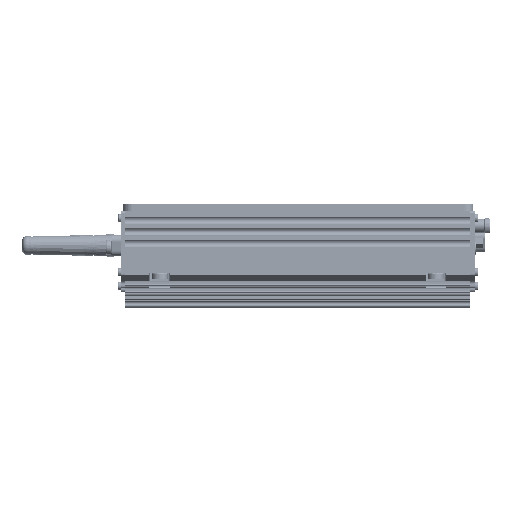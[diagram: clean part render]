
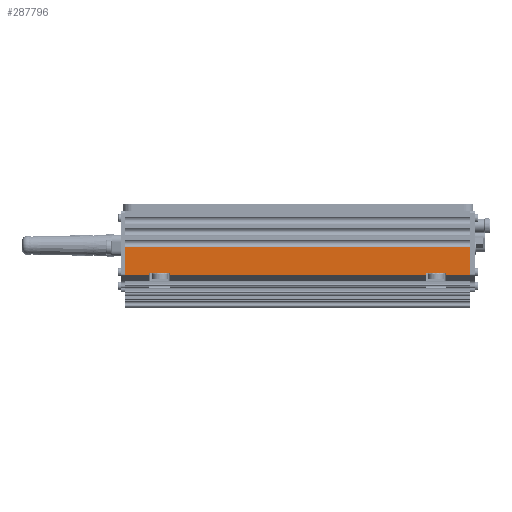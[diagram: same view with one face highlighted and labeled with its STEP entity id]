
A CAD part, left-side view. The second image highlights one B-rep face of the part: STEP entity #287796.
In plain terms, the highlighted planar face has unit normal (-1, 0, 0).
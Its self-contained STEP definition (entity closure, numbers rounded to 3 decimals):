
#20656 = DIRECTION ( 'NONE',  ( 0., -1., 0. ) ) ;
#23544 = EDGE_CURVE ( 'NONE', #770663, #515960, #704110, .T. ) ;
#62546 = VECTOR ( 'NONE', #1071418, 1000. ) ;
#82371 = EDGE_CURVE ( 'NONE', #476608, #313727, #1182696, .T. ) ;
#97591 = DIRECTION ( 'NONE',  ( 0., 0., 1. ) ) ;
#100037 = AXIS2_PLACEMENT_3D ( 'NONE', #1122215, #571860, #20656 ) ;
#104467 = CARTESIAN_POINT ( 'NONE',  ( -129.051, 57.387, 209.971 ) ) ;
#118673 = CARTESIAN_POINT ( 'NONE',  ( -129.051, -73.113, 221.321 ) ) ;
#120809 = LINE ( 'NONE', #157986, #825834 ) ;
#155714 = CARTESIAN_POINT ( 'NONE',  ( -129.051, 66.387, 194.971 ) ) ;
#155819 = EDGE_CURVE ( 'NONE', #520659, #766640, #664793, .T. ) ;
#157986 = CARTESIAN_POINT ( 'NONE',  ( -129.051, -73.113, 194.971 ) ) ;
#181381 = LINE ( 'NONE', #155714, #857649 ) ;
#181657 = CARTESIAN_POINT ( 'NONE',  ( -129.051, 76.887, 194.971 ) ) ;
#189983 = CARTESIAN_POINT ( 'NONE',  ( -129.051, 57.387, 194.971 ) ) ;
#193770 = VECTOR ( 'NONE', #882510, 1000. ) ;
#200500 = VERTEX_POINT ( 'NONE', #545180 ) ;
#220653 = VECTOR ( 'NONE', #908116, 1000. ) ;
#239065 = CARTESIAN_POINT ( 'NONE',  ( -129.051, -73.113, 209.321 ) ) ;
#245031 = VECTOR ( 'NONE', #1038685, 1000. ) ;
#249589 = LINE ( 'NONE', #727518, #220653 ) ;
#287796 = ADVANCED_FACE ( 'NONE', ( #573162 ), #752879, .F. ) ;
#313727 = VERTEX_POINT ( 'NONE', #443097 ) ;
#344819 = VECTOR ( 'NONE', #97591, 1000. ) ;
#357346 = CARTESIAN_POINT ( 'NONE',  ( -129.051, 76.887, 221.321 ) ) ;
#360468 = CARTESIAN_POINT ( 'NONE',  ( -129.051, -62.613, 209.321 ) ) ;
#370175 = ORIENTED_EDGE ( 'NONE', *, *, #769492, .F. ) ;
#382542 = ORIENTED_EDGE ( 'NONE', *, *, #155819, .F. ) ;
#386168 = ORIENTED_EDGE ( 'NONE', *, *, #739293, .F. ) ;
#391232 = VECTOR ( 'NONE', #432664, 1000. ) ;
#404320 = CARTESIAN_POINT ( 'NONE',  ( -129.051, 76.887, 221.321 ) ) ;
#430473 = VECTOR ( 'NONE', #862566, 1000. ) ;
#431052 = CARTESIAN_POINT ( 'NONE',  ( -129.051, -73.113, 209.321 ) ) ;
#432664 = DIRECTION ( 'NONE',  ( 0., 1., 0. ) ) ;
#443097 = CARTESIAN_POINT ( 'NONE',  ( -129.051, 76.887, 209.321 ) ) ;
#476608 = VERTEX_POINT ( 'NONE', #752499 ) ;
#478104 = VECTOR ( 'NONE', #612302, 1000. ) ;
#495583 = ORIENTED_EDGE ( 'NONE', *, *, #677290, .F. ) ;
#515960 = VERTEX_POINT ( 'NONE', #357346 ) ;
#520659 = VERTEX_POINT ( 'NONE', #636911 ) ;
#545180 = CARTESIAN_POINT ( 'NONE',  ( -129.051, -62.613, 209.971 ) ) ;
#550390 = CARTESIAN_POINT ( 'NONE',  ( -129.051, 66.387, 209.971 ) ) ;
#571860 = DIRECTION ( 'NONE',  ( 1., 0., 0. ) ) ;
#572909 = VERTEX_POINT ( 'NONE', #104467 ) ;
#573162 = FACE_OUTER_BOUND ( 'NONE', #1006327, .T. ) ;
#575471 = CARTESIAN_POINT ( 'NONE',  ( -129.051, 57.387, 209.321 ) ) ;
#575678 = ORIENTED_EDGE ( 'NONE', *, *, #82371, .F. ) ;
#612302 = DIRECTION ( 'NONE',  ( 0., 1., 0. ) ) ;
#614419 = DIRECTION ( 'NONE',  ( 0., 0., -1. ) ) ;
#628878 = VERTEX_POINT ( 'NONE', #773427 ) ;
#636911 = CARTESIAN_POINT ( 'NONE',  ( -129.051, -53.613, 209.321 ) ) ;
#642404 = EDGE_CURVE ( 'NONE', #766640, #572909, #904273, .T. ) ;
#655128 = EDGE_CURVE ( 'NONE', #705235, #476608, #181381, .T. ) ;
#664793 = LINE ( 'NONE', #1164252, #391232 ) ;
#677290 = EDGE_CURVE ( 'NONE', #1090627, #520659, #704375, .T. ) ;
#689804 = ORIENTED_EDGE ( 'NONE', *, *, #23544, .T. ) ;
#695086 = EDGE_CURVE ( 'NONE', #628878, #770663, #120809, .T. ) ;
#702028 = CARTESIAN_POINT ( 'NONE',  ( -129.051, 76.887, 209.971 ) ) ;
#704110 = LINE ( 'NONE', #404320, #430473 ) ;
#704375 = LINE ( 'NONE', #786246, #1164251 ) ;
#705235 = VERTEX_POINT ( 'NONE', #550390 ) ;
#718057 = ORIENTED_EDGE ( 'NONE', *, *, #840552, .F. ) ;
#724584 = ORIENTED_EDGE ( 'NONE', *, *, #642404, .F. ) ;
#727518 = CARTESIAN_POINT ( 'NONE',  ( -129.051, -62.613, 194.971 ) ) ;
#732608 = VERTEX_POINT ( 'NONE', #360468 ) ;
#734592 = LINE ( 'NONE', #757790, #245031 ) ;
#739293 = EDGE_CURVE ( 'NONE', #732608, #200500, #249589, .T. ) ;
#741418 = LINE ( 'NONE', #181657, #956797 ) ;
#752499 = CARTESIAN_POINT ( 'NONE',  ( -129.051, 66.387, 209.321 ) ) ;
#752879 = PLANE ( 'NONE',  #100037 ) ;
#757790 = CARTESIAN_POINT ( 'NONE',  ( -129.051, 76.887, 209.971 ) ) ;
#766640 = VERTEX_POINT ( 'NONE', #575471 ) ;
#769492 = EDGE_CURVE ( 'NONE', #313727, #515960, #741418, .T. ) ;
#770663 = VERTEX_POINT ( 'NONE', #118673 ) ;
#773427 = CARTESIAN_POINT ( 'NONE',  ( -129.051, -73.113, 209.321 ) ) ;
#786246 = CARTESIAN_POINT ( 'NONE',  ( -129.051, -53.613, 208.602 ) ) ;
#801428 = DIRECTION ( 'NONE',  ( 0., 0., 1. ) ) ;
#825249 = LINE ( 'NONE', #702028, #62546 ) ;
#825834 = VECTOR ( 'NONE', #801428, 1000. ) ;
#834236 = CARTESIAN_POINT ( 'NONE',  ( -129.051, -53.613, 209.971 ) ) ;
#837830 = ORIENTED_EDGE ( 'NONE', *, *, #695086, .T. ) ;
#840552 = EDGE_CURVE ( 'NONE', #572909, #705235, #734592, .T. ) ;
#846791 = ORIENTED_EDGE ( 'NONE', *, *, #655128, .F. ) ;
#857649 = VECTOR ( 'NONE', #614419, 1000. ) ;
#862566 = DIRECTION ( 'NONE',  ( 0., 1., 0. ) ) ;
#878707 = DIRECTION ( 'NONE',  ( 0., 0., -1. ) ) ;
#882510 = DIRECTION ( 'NONE',  ( 0., 1., 0. ) ) ;
#898961 = LINE ( 'NONE', #239065, #193770 ) ;
#904273 = LINE ( 'NONE', #189983, #344819 ) ;
#908116 = DIRECTION ( 'NONE',  ( 0., 0., 1. ) ) ;
#917678 = DIRECTION ( 'NONE',  ( 0., 0., 1. ) ) ;
#956797 = VECTOR ( 'NONE', #917678, 1000. ) ;
#1003259 = ORIENTED_EDGE ( 'NONE', *, *, #1126091, .F. ) ;
#1006327 = EDGE_LOOP ( 'NONE', ( #382542, #495583, #1003259, #386168, #1086705, #837830, #689804, #370175, #575678, #846791, #718057, #724584 ) ) ;
#1038685 = DIRECTION ( 'NONE',  ( 0., 1., 0. ) ) ;
#1071418 = DIRECTION ( 'NONE',  ( 0., 1., 0. ) ) ;
#1086705 = ORIENTED_EDGE ( 'NONE', *, *, #1176556, .F. ) ;
#1090627 = VERTEX_POINT ( 'NONE', #834236 ) ;
#1122215 = CARTESIAN_POINT ( 'NONE',  ( -129.051, 76.887, 194.971 ) ) ;
#1126091 = EDGE_CURVE ( 'NONE', #200500, #1090627, #825249, .T. ) ;
#1164252 = CARTESIAN_POINT ( 'NONE',  ( -129.051, -73.113, 209.321 ) ) ;
#1164251 = VECTOR ( 'NONE', #878707, 1000. ) ;
#1176556 = EDGE_CURVE ( 'NONE', #628878, #732608, #898961, .T. ) ;
#1182696 = LINE ( 'NONE', #431052, #478104 ) ;
